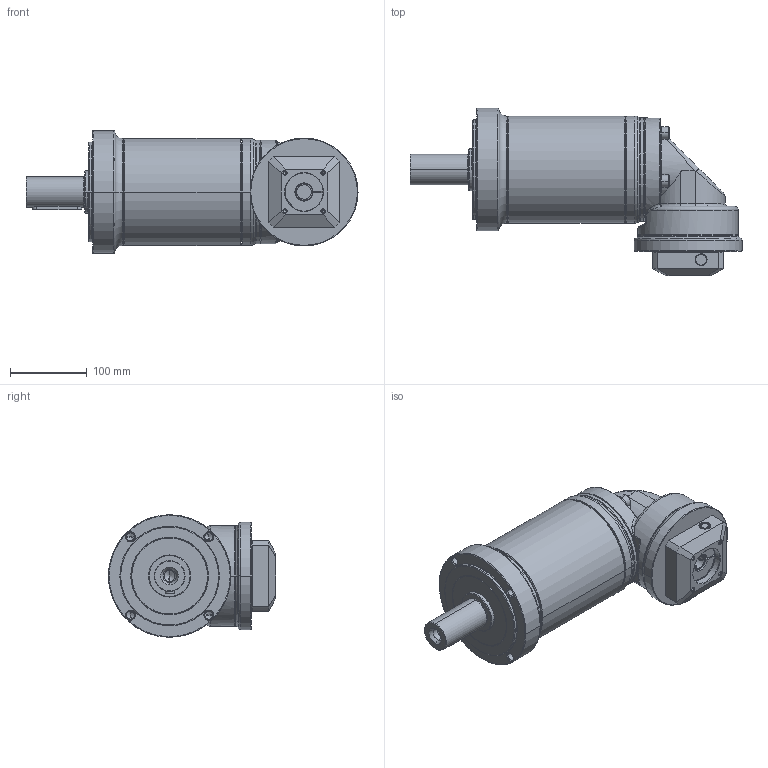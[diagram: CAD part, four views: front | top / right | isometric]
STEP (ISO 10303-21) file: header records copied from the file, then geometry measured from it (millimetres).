
FILE_DESCRIPTION((''),'2;1');
FILE_NAME('PG2R-160_3ST_19-P0411400101_ASM','2016-04-28T',('d01943'),(''),'PRO/ENGINEER BY PARAMETRIC TECHNOLOGY CORPORATION, 2008410','PRO/ENGINEER BY PARAMETRIC TECHNOLOGY CORPORATION, 2008410','');
FILE_SCHEMA(('CONFIG_CONTROL_DESIGN'));
Length unit declared in the file: millimetre
Products named in the file (12): P1325510001; P0273500001; P0350501103; P1349500001; P1017500001; P0713500001; P0503400008; P1350500001; P0411400101; P1702500001; 2111BA10040; PG2R-160_3ST_19-P0411400101_ASM
Assembly tree (14 placements, depth 2):
  PG2R-160_3ST_19-P0411400101_ASM
    P1325510001
    P0273500001
    P0350501103
    P1349500001
    P1017500001
    P0713500001
    P0503400008
    P1350500001
    P0411400101
    P1702500001
    2111BA10040  x4
Bounding box: 434 x 218.5 x 160 mm (x, y, z)
Volume: 3111791.5 mm3; surface area: 514479.8 mm2
Topology: 14 solids, 15 shells, 715 faces, 1571 edges, 910 vertices
Faces by surface type: cylinder 221, cone 198, plane 156, torus 108, bspline 32
Entity records: 22801 total; most frequent: CARTESIAN_POINT 8992, DIRECTION 3071, ORIENTED_EDGE 2666, EDGE_CURVE 1333, AXIS2_PLACEMENT_3D 1301, VERTEX_POINT 790, EDGE_LOOP 693, CIRCLE 691
